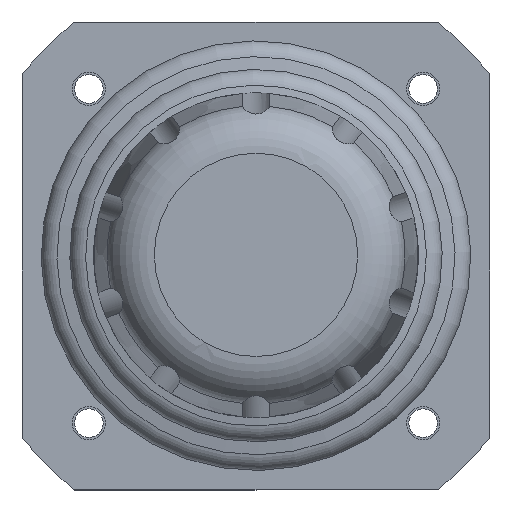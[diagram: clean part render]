
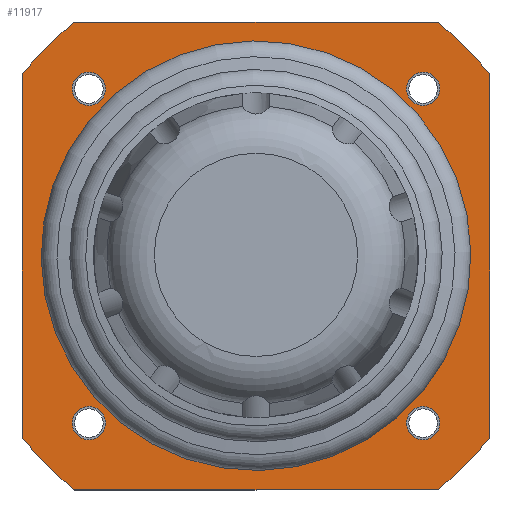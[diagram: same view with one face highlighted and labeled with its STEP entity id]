
A CAD part, top view. The second image highlights one B-rep face of the part: STEP entity #11917.
In plain terms, the highlighted planar face has unit normal (0, 0, 1).
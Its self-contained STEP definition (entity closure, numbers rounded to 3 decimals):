
#10 = FACE_BOUND ( 'NONE', #5028, .T. ) ;
#347 = FACE_OUTER_BOUND ( 'NONE', #9467, .T. ) ;
#353 = VERTEX_POINT ( 'NONE', #4437 ) ;
#400 = EDGE_CURVE ( 'NONE', #1582, #1582, #3889, .T. ) ;
#436 = ORIENTED_EDGE ( 'NONE', *, *, #7987, .F. ) ;
#626 = VERTEX_POINT ( 'NONE', #10293 ) ;
#674 = CIRCLE ( 'NONE', #10330, 1.75 ) ;
#722 = AXIS2_PLACEMENT_3D ( 'NONE', #2351, #7622, #8652 ) ;
#750 = DIRECTION ( 'NONE',  ( 0., 0., 1. ) ) ;
#764 = VERTEX_POINT ( 'NONE', #1725 ) ;
#802 = CIRCLE ( 'NONE', #3816, 31. ) ;
#864 = CARTESIAN_POINT ( 'NONE',  ( 17.5, 17.5, 0. ) ) ;
#872 = DIRECTION ( 'NONE',  ( 0., 0., -1. ) ) ;
#907 = EDGE_CURVE ( 'NONE', #6790, #8959, #11653, .T. ) ;
#940 = CARTESIAN_POINT ( 'NONE',  ( -18.993, 24.5, 0. ) ) ;
#949 = AXIS2_PLACEMENT_3D ( 'NONE', #9448, #9394, #4383 ) ;
#1161 = DIRECTION ( 'NONE',  ( 1., 0., 0. ) ) ;
#1163 = VERTEX_POINT ( 'NONE', #940 ) ;
#1176 = CARTESIAN_POINT ( 'NONE',  ( -24.5, -18.993, 0. ) ) ;
#1214 = EDGE_LOOP ( 'NONE', ( #12123 ) ) ;
#1363 = VERTEX_POINT ( 'NONE', #8900 ) ;
#1386 = EDGE_CURVE ( 'NONE', #353, #4800, #802, .T. ) ;
#1483 = AXIS2_PLACEMENT_3D ( 'NONE', #4626, #1583, #7859 ) ;
#1521 = CARTESIAN_POINT ( 'NONE',  ( 18.993, -24.5, 0. ) ) ;
#1582 = VERTEX_POINT ( 'NONE', #3511 ) ;
#1583 = DIRECTION ( 'NONE',  ( 0., 0., -1. ) ) ;
#1666 = AXIS2_PLACEMENT_3D ( 'NONE', #2354, #10631, #4426 ) ;
#1683 = DIRECTION ( 'NONE',  ( 0., 0., -1. ) ) ;
#1725 = CARTESIAN_POINT ( 'NONE',  ( 17.5, 19.25, 0. ) ) ;
#1768 = EDGE_CURVE ( 'NONE', #1163, #353, #11936, .T. ) ;
#2000 = CARTESIAN_POINT ( 'NONE',  ( -17.5, -15.75, 0. ) ) ;
#2040 = VERTEX_POINT ( 'NONE', #2989 ) ;
#2351 = CARTESIAN_POINT ( 'NONE',  ( -17.5, -17.5, 0. ) ) ;
#2354 = CARTESIAN_POINT ( 'NONE',  ( 0., 0., 0. ) ) ;
#2565 = CARTESIAN_POINT ( 'NONE',  ( 24.5, 18.993, 0. ) ) ;
#2572 = EDGE_CURVE ( 'NONE', #4800, #626, #11342, .T. ) ;
#2624 = VECTOR ( 'NONE', #10725, 1000. ) ;
#2740 = CARTESIAN_POINT ( 'NONE',  ( 20.297, 0.339, 0. ) ) ;
#2741 = EDGE_CURVE ( 'NONE', #9871, #1363, #7937, .T. ) ;
#2989 = CARTESIAN_POINT ( 'NONE',  ( -17.5, 19.25, 0. ) ) ;
#3212 = EDGE_CURVE ( 'NONE', #1363, #6790, #8751, .T. ) ;
#3511 = CARTESIAN_POINT ( 'NONE',  ( 17.5, -15.75, 0. ) ) ;
#3556 = ORIENTED_EDGE ( 'NONE', *, *, #400, .F. ) ;
#3585 = VECTOR ( 'NONE', #10877, 1000. ) ;
#3783 = DIRECTION ( 'NONE',  ( 0., 0., 1. ) ) ;
#3816 = AXIS2_PLACEMENT_3D ( 'NONE', #8001, #8948, #11087 ) ;
#3889 = CIRCLE ( 'NONE', #949, 1.75 ) ;
#4281 = EDGE_CURVE ( 'NONE', #626, #9871, #6313, .T. ) ;
#4383 = DIRECTION ( 'NONE',  ( 0., 1., 0. ) ) ;
#4426 = DIRECTION ( 'NONE',  ( 0., -1., 0. ) ) ;
#4437 = CARTESIAN_POINT ( 'NONE',  ( 18.993, 24.5, 0. ) ) ;
#4583 = CIRCLE ( 'NONE', #7066, 1.75 ) ;
#4626 = CARTESIAN_POINT ( 'NONE',  ( 0., 0., 0. ) ) ;
#4800 = VERTEX_POINT ( 'NONE', #5564 ) ;
#4832 = DIRECTION ( 'NONE',  ( 0., 0., -1. ) ) ;
#4900 = CARTESIAN_POINT ( 'NONE',  ( -24.5, 18.993, 0. ) ) ;
#5028 = EDGE_LOOP ( 'NONE', ( #10789 ) ) ;
#5048 = AXIS2_PLACEMENT_3D ( 'NONE', #6850, #1683, #8776 ) ;
#5564 = CARTESIAN_POINT ( 'NONE',  ( 24.5, 18.993, 0. ) ) ;
#6013 = CARTESIAN_POINT ( 'NONE',  ( 0., 0., 0. ) ) ;
#6095 = DIRECTION ( 'NONE',  ( 0., -1., 0. ) ) ;
#6313 = CIRCLE ( 'NONE', #5048, 31. ) ;
#6764 = CARTESIAN_POINT ( 'NONE',  ( -24.5, -18.993, 0. ) ) ;
#6790 = VERTEX_POINT ( 'NONE', #1176 ) ;
#6807 = CARTESIAN_POINT ( 'NONE',  ( -17.5, 17.5, 0. ) ) ;
#6850 = CARTESIAN_POINT ( 'NONE',  ( 0., 0., 0. ) ) ;
#6855 = DIRECTION ( 'NONE',  ( 0., 1., 0. ) ) ;
#7066 = AXIS2_PLACEMENT_3D ( 'NONE', #864, #3783, #8068 ) ;
#7198 = AXIS2_PLACEMENT_3D ( 'NONE', #6013, #872, #6095 ) ;
#7208 = ORIENTED_EDGE ( 'NONE', *, *, #10854, .F. ) ;
#7622 = DIRECTION ( 'NONE',  ( 0., 0., 1. ) ) ;
#7830 = EDGE_CURVE ( 'NONE', #11588, #11588, #12658, .T. ) ;
#7859 = DIRECTION ( 'NONE',  ( 1., 0.017, 0. ) ) ;
#7937 = LINE ( 'NONE', #11083, #13094 ) ;
#7987 = EDGE_CURVE ( 'NONE', #764, #764, #4583, .T. ) ;
#8001 = CARTESIAN_POINT ( 'NONE',  ( 0., 0., 0. ) ) ;
#8034 = DIRECTION ( 'NONE',  ( -1., 0., 0. ) ) ;
#8068 = DIRECTION ( 'NONE',  ( 0., 1., 0. ) ) ;
#8128 = ORIENTED_EDGE ( 'NONE', *, *, #907, .F. ) ;
#8359 = ORIENTED_EDGE ( 'NONE', *, *, #1768, .F. ) ;
#8514 = VERTEX_POINT ( 'NONE', #2000 ) ;
#8566 = FACE_BOUND ( 'NONE', #9948, .T. ) ;
#8652 = DIRECTION ( 'NONE',  ( 0., 1., 0. ) ) ;
#8751 = CIRCLE ( 'NONE', #1666, 31. ) ;
#8776 = DIRECTION ( 'NONE',  ( 0., -1., 0. ) ) ;
#8900 = CARTESIAN_POINT ( 'NONE',  ( -18.993, -24.5, 0. ) ) ;
#8934 = ORIENTED_EDGE ( 'NONE', *, *, #4281, .F. ) ;
#8948 = DIRECTION ( 'NONE',  ( 0., 0., -1. ) ) ;
#8959 = VERTEX_POINT ( 'NONE', #4900 ) ;
#8966 = PLANE ( 'NONE',  #12682 ) ;
#9198 = FACE_BOUND ( 'NONE', #12984, .T. ) ;
#9394 = DIRECTION ( 'NONE',  ( 0., 0., 1. ) ) ;
#9448 = CARTESIAN_POINT ( 'NONE',  ( 17.5, -17.5, 0. ) ) ;
#9467 = EDGE_LOOP ( 'NONE', ( #12729, #12370, #8934, #11447, #10300, #8359, #11913, #8128 ) ) ;
#9871 = VERTEX_POINT ( 'NONE', #1521 ) ;
#9948 = EDGE_LOOP ( 'NONE', ( #3556 ) ) ;
#10022 = DIRECTION ( 'NONE',  ( 0., -1., 0. ) ) ;
#10196 = FACE_BOUND ( 'NONE', #1214, .T. ) ;
#10293 = CARTESIAN_POINT ( 'NONE',  ( 24.5, -18.993, 0. ) ) ;
#10300 = ORIENTED_EDGE ( 'NONE', *, *, #1386, .F. ) ;
#10330 = AXIS2_PLACEMENT_3D ( 'NONE', #6807, #750, #6855 ) ;
#10631 = DIRECTION ( 'NONE',  ( 0., 0., -1. ) ) ;
#10638 = EDGE_CURVE ( 'NONE', #8514, #8514, #11971, .T. ) ;
#10681 = VECTOR ( 'NONE', #1161, 1000. ) ;
#10709 = CARTESIAN_POINT ( 'NONE',  ( -18.993, 24.5, 0. ) ) ;
#10725 = DIRECTION ( 'NONE',  ( 0., 1., 0. ) ) ;
#10789 = ORIENTED_EDGE ( 'NONE', *, *, #7830, .T. ) ;
#10854 = EDGE_CURVE ( 'NONE', #2040, #2040, #674, .T. ) ;
#10877 = DIRECTION ( 'NONE',  ( 0., -1., 0. ) ) ;
#11083 = CARTESIAN_POINT ( 'NONE',  ( 18.993, -24.5, 0. ) ) ;
#11087 = DIRECTION ( 'NONE',  ( 0., -1., 0. ) ) ;
#11342 = LINE ( 'NONE', #2565, #3585 ) ;
#11440 = EDGE_CURVE ( 'NONE', #8959, #1163, #12755, .T. ) ;
#11447 = ORIENTED_EDGE ( 'NONE', *, *, #2572, .F. ) ;
#11588 = VERTEX_POINT ( 'NONE', #2740 ) ;
#11653 = LINE ( 'NONE', #6764, #2624 ) ;
#11913 = ORIENTED_EDGE ( 'NONE', *, *, #11440, .F. ) ;
#11917 = ADVANCED_FACE ( 'NONE', ( #347, #8566, #10196, #12263, #9198, #10 ), #8966, .F. ) ;
#11936 = LINE ( 'NONE', #10709, #10681 ) ;
#11971 = CIRCLE ( 'NONE', #722, 1.75 ) ;
#12123 = ORIENTED_EDGE ( 'NONE', *, *, #10638, .F. ) ;
#12263 = FACE_BOUND ( 'NONE', #12408, .T. ) ;
#12370 = ORIENTED_EDGE ( 'NONE', *, *, #2741, .F. ) ;
#12408 = EDGE_LOOP ( 'NONE', ( #7208 ) ) ;
#12658 = CIRCLE ( 'NONE', #1483, 20.3 ) ;
#12682 = AXIS2_PLACEMENT_3D ( 'NONE', #13114, #4832, #10022 ) ;
#12729 = ORIENTED_EDGE ( 'NONE', *, *, #3212, .F. ) ;
#12755 = CIRCLE ( 'NONE', #7198, 31. ) ;
#12984 = EDGE_LOOP ( 'NONE', ( #436 ) ) ;
#13094 = VECTOR ( 'NONE', #8034, 1000. ) ;
#13114 = CARTESIAN_POINT ( 'NONE',  ( 0., 0., 0. ) ) ;
